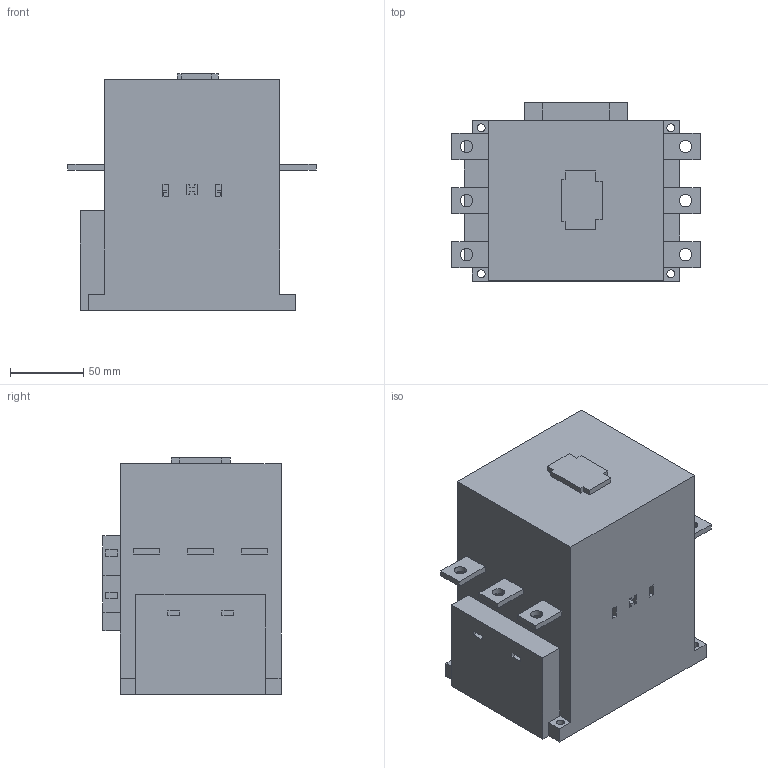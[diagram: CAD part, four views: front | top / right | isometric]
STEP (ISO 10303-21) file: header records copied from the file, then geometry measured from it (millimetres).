
FILE_DESCRIPTION (( 'STEP AP203' ), '1' );
FILE_NAME ('K3-116_151_176+HKA11.STEP', '2014-03-10T13:56:37', ( '' ), ( '' ), 'SwSTEP 2.0', 'SolidWorks 2014', '' );
FILE_SCHEMA (( 'CONFIG_CONTROL_DESIGN' ));
Length unit declared in the file: millimetre
Products named in the file (3): Imported; Imported_2; K3-116_151_176+HKA11
Assembly tree (2 placements, depth 2):
  K3-116_151_176+HKA11
    Imported
    Imported_2
Bounding box: 170 x 122 x 161.9 mm (x, y, z)
Volume: 2244131.7 mm3; surface area: 136607.9 mm2
Topology: 2 solids, 2 shells, 157 faces, 414 edges, 276 vertices
Faces by surface type: plane 137, cylinder 20
Entity records: 5145 total; most frequent: CARTESIAN_POINT 852, ORIENTED_EDGE 828, DIRECTION 778, EDGE_CURVE 414, VECTOR 374, LINE 374, VERTEX_POINT 276, AXIS2_PLACEMENT_3D 202
